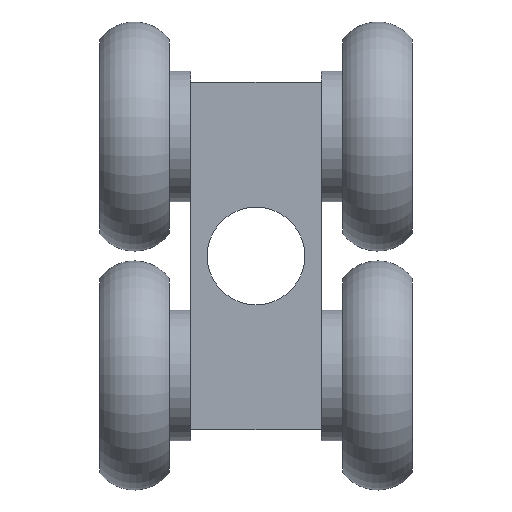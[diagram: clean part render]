
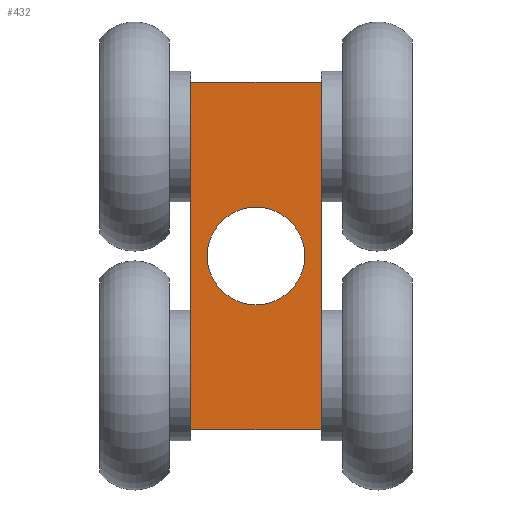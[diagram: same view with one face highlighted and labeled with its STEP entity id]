
A CAD part, left-side view. The second image highlights one B-rep face of the part: STEP entity #432.
In plain terms, the highlighted planar face has unit normal (-1, 0, 0).
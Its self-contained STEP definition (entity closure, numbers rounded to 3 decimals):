
#168=CARTESIAN_POINT('',(3.259,8.37,11.5));
#169=VERTEX_POINT('',#168);
#170=CARTESIAN_POINT('',(3.259,8.37,16.0));
#171=DIRECTION('',(1.0,0.0,0.0));
#172=DIRECTION('',(0.0,0.0,1.0));
#173=AXIS2_PLACEMENT_3D('',#170,#171,#172);
#174=CIRCLE('',#173,4.5);
#175=EDGE_CURVE('',#169,#169,#174,.T.);
#336=CARTESIAN_POINT('',(3.259,2.37,32.0));
#337=VERTEX_POINT('',#336);
#344=CARTESIAN_POINT('',(3.259,2.37,0.0));
#345=VERTEX_POINT('',#344);
#346=CARTESIAN_POINT('',(3.259,2.37,0.0));
#347=DIRECTION('',(0.0,0.0,1.0));
#348=VECTOR('',#347,32.0);
#349=LINE('',#346,#348);
#350=EDGE_CURVE('',#345,#337,#349,.T.);
#399=CARTESIAN_POINT('',(3.259,2.37,0.0));
#400=DIRECTION('',(-1.0,0.0,0.0));
#401=DIRECTION('',(0.0,0.0,1.0));
#402=AXIS2_PLACEMENT_3D('',#399,#400,#401);
#403=PLANE('',#402);
#404=CARTESIAN_POINT('',(3.259,14.37,32.0));
#405=VERTEX_POINT('',#404);
#406=CARTESIAN_POINT('',(3.259,2.37,32.0));
#407=DIRECTION('',(0.0,1.0,0.0));
#408=VECTOR('',#407,12.0);
#409=LINE('',#406,#408);
#410=EDGE_CURVE('',#337,#405,#409,.T.);
#411=ORIENTED_EDGE('',*,*,#410,.T.);
#412=CARTESIAN_POINT('',(3.259,14.37,0.0));
#413=VERTEX_POINT('',#412);
#414=CARTESIAN_POINT('',(3.259,14.37,0.0));
#415=DIRECTION('',(0.0,0.0,1.0));
#416=VECTOR('',#415,32.0);
#417=LINE('',#414,#416);
#418=EDGE_CURVE('',#413,#405,#417,.T.);
#419=ORIENTED_EDGE('',*,*,#418,.F.);
#420=CARTESIAN_POINT('',(3.259,14.37,0.0));
#421=DIRECTION('',(0.0,-1.0,0.0));
#422=VECTOR('',#421,12.0);
#423=LINE('',#420,#422);
#424=EDGE_CURVE('',#413,#345,#423,.T.);
#425=ORIENTED_EDGE('',*,*,#424,.T.);
#426=ORIENTED_EDGE('',*,*,#350,.T.);
#427=EDGE_LOOP('',(#411,#419,#425,#426));
#428=FACE_OUTER_BOUND('',#427,.T.);
#429=ORIENTED_EDGE('',*,*,#175,.T.);
#430=EDGE_LOOP('',(#429));
#431=FACE_BOUND('',#430,.T.);
#432=ADVANCED_FACE('',(#428,#431),#403,.T.);
